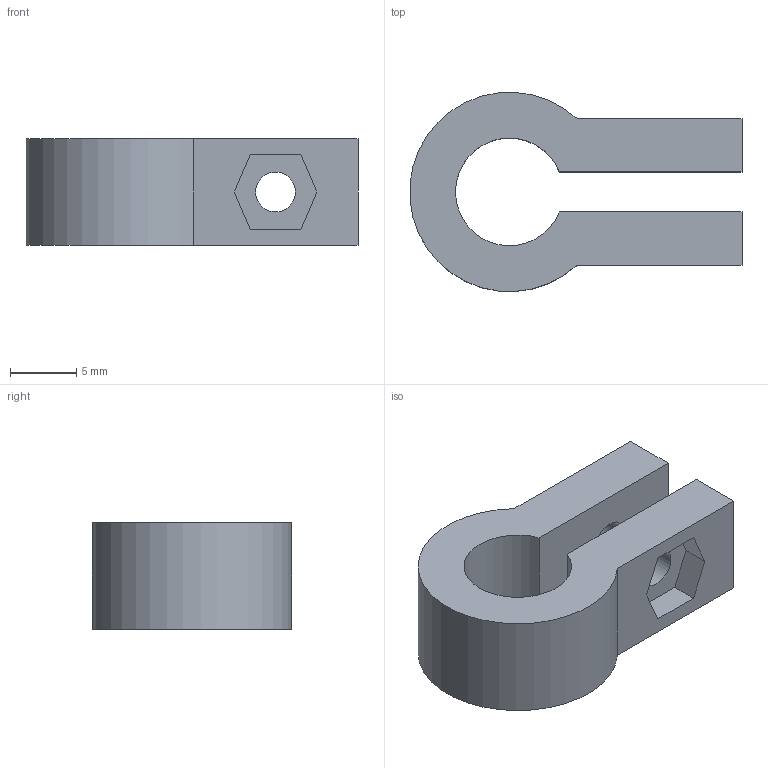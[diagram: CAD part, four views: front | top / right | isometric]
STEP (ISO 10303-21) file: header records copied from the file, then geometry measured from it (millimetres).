
FILE_DESCRIPTION(/* description */ (''),/* implementation_level */ '2;1');
FILE_NAME(/* name */ 'D:\3D печать\Мои проекты\Archy MK 2\STEP\MK3\зажим вала для фиксации плеча.stp',/* time_stamp */ '2019-08-16T23:01:09+06:00',/* author */ ('Пользователь'),/* organization */ (''),/* preprocessor_version */ 'ST-DEVELOPER v16.5',/* originating_system */ 'Autodesk Inventor 2017',/* authorisation */ '');
FILE_SCHEMA (('AUTOMOTIVE_DESIGN { 1 0 10303 214 3 1 1 }'));
Length unit declared in the file: millimetre
Products named in the file (1): зажим вала \X2\0434
043B044F\X0\ фиксации \X2\043F043B0435
04470430\X0\
Bounding box: 24.97 x 14.97 x 8 mm (x, y, z)
Volume: 1522.6 mm3; surface area: 1412.4 mm2
Topology: 1 solids, 1 shells, 20 faces, 51 edges, 34 vertices
Faces by surface type: plane 16, cylinder 4
Full cylindrical faces by diameter (mm): 3 x2
Entity records: 625 total; most frequent: CARTESIAN_POINT 104, DIRECTION 99, ORIENTED_EDGE 98, EDGE_CURVE 49, LINE 41, VECTOR 41, VERTEX_POINT 34, AXIS2_PLACEMENT_3D 29
